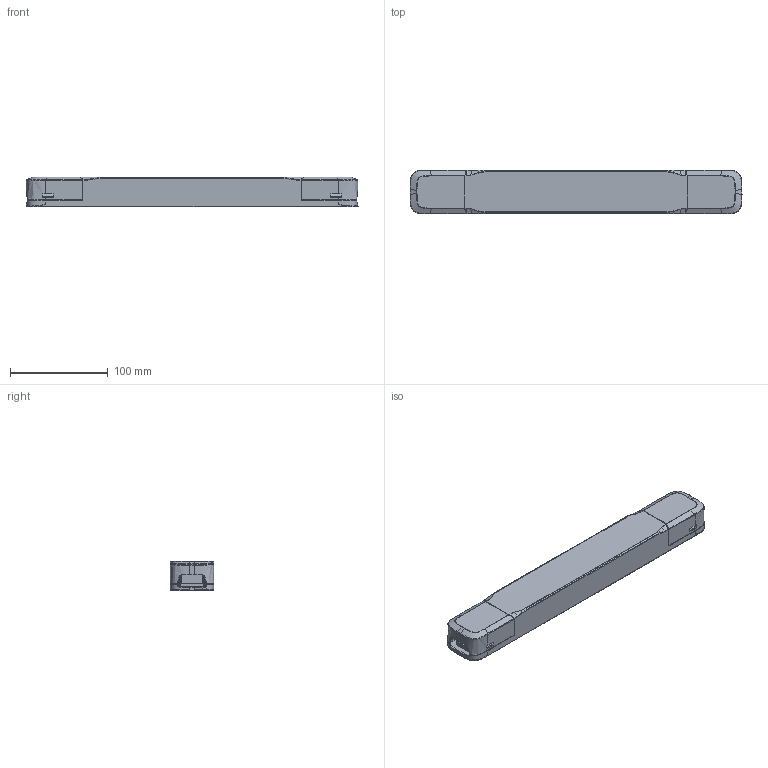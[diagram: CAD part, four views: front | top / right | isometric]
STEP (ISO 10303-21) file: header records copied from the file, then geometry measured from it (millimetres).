
FILE_DESCRIPTION(/* description */ (''),/* implementation_level */ '2;1');
FILE_NAME(/* name */ 'LS-150-24 DALI2-DT8 LI',/* time_stamp */ '2022-06-24T16:02:09+08:00',/* author */ (''),/* organization */ (''),/* preprocessor_version */ 'ST-DEVELOPER v16.5',/* originating_system */ '',/* authorisation */ '');
FILE_SCHEMA (('AUTOMOTIVE_DESIGN'));
Length unit declared in the file: millimetre
Products named in the file (1): Document
Bounding box: 340 x 44.99 x 30.5 mm (x, y, z)
Volume: 81230 mm3; surface area: 122939.3 mm2
Topology: 4 solids, 4 shells, 1326 faces, 3329 edges, 2099 vertices
Faces by surface type: plane 1006, bspline 320
Entity records: 46427 total; most frequent: CARTESIAN_POINT 23867, ORIENTED_EDGE 6654, EDGE_CURVE 3327, B_SPLINE_CURVE_WITH_KNOTS 3133, VERTEX_POINT 2099, EDGE_LOOP 1432, ADVANCED_FACE 1326, FACE_OUTER_BOUND 1326
